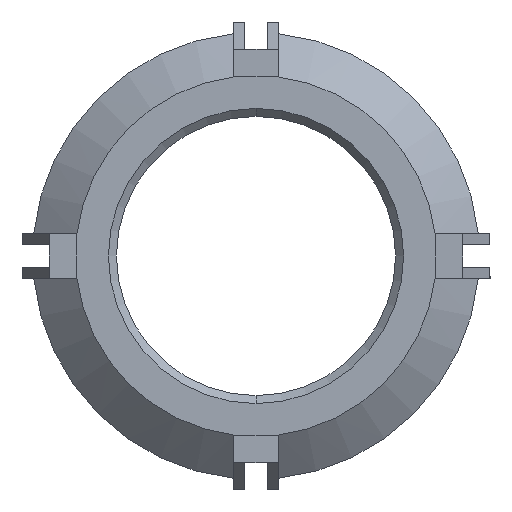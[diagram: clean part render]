
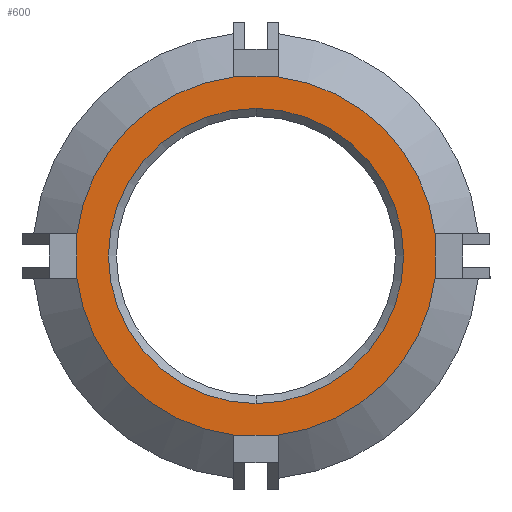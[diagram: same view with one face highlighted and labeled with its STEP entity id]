
A CAD part, front view. The second image highlights one B-rep face of the part: STEP entity #600.
In plain terms, the highlighted planar face has unit normal (0, -1, 0).
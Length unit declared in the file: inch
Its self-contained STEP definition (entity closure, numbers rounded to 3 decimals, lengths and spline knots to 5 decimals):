
#3 = EDGE_LOOP ( 'NONE', ( #1615, #2794, #1934, #1865, #41, #2922, #3356, #12 ) ) ;
#12 = ORIENTED_EDGE ( 'NONE', *, *, #758, .F. ) ;
#41 = ORIENTED_EDGE ( 'NONE', *, *, #1577, .T. ) ;
#89 = DIRECTION ( 'NONE',  ( 0., 0., 1. ) ) ;
#205 = AXIS2_PLACEMENT_3D ( 'NONE', #368, #1249, #2348 ) ;
#236 = CARTESIAN_POINT ( 'NONE',  ( 0.20041, 0., -0.025 ) ) ;
#243 = VERTEX_POINT ( 'NONE', #2242 ) ;
#250 = CARTESIAN_POINT ( 'NONE',  ( -0.025, 0., -0.20041 ) ) ;
#269 = VECTOR ( 'NONE', #1380, 39.37008 ) ;
#321 = CIRCLE ( 'NONE', #205, 0.16518 ) ;
#365 = EDGE_CURVE ( 'NONE', #2802, #2195, #321, .T. ) ;
#368 = CARTESIAN_POINT ( 'NONE',  ( 0., 0., 0. ) ) ;
#370 = CARTESIAN_POINT ( 'NONE',  ( 0.20041, 0., 0.025 ) ) ;
#383 = DIRECTION ( 'NONE',  ( 0., 0., -1. ) ) ;
#427 = CARTESIAN_POINT ( 'NONE',  ( 0.025, 0., 0.20041 ) ) ;
#436 = ORIENTED_EDGE ( 'NONE', *, *, #365, .T. ) ;
#449 = VECTOR ( 'NONE', #3378, 39.37008 ) ;
#560 = VERTEX_POINT ( 'NONE', #427 ) ;
#591 = VERTEX_POINT ( 'NONE', #773 ) ;
#600 = ADVANCED_FACE ( 'NONE', ( #1062, #737 ), #1884, .F. ) ;
#633 = LINE ( 'NONE', #250, #449 ) ;
#640 = CARTESIAN_POINT ( 'NONE',  ( 0., 0., 0. ) ) ;
#658 = EDGE_CURVE ( 'NONE', #591, #1748, #633, .T. ) ;
#665 = CARTESIAN_POINT ( 'NONE',  ( -0.20041, 0., -0.025 ) ) ;
#737 = FACE_OUTER_BOUND ( 'NONE', #3, .T. ) ;
#758 = EDGE_CURVE ( 'NONE', #1252, #560, #2053, .T. ) ;
#772 = CARTESIAN_POINT ( 'NONE',  ( -0.025, 0., 0.20041 ) ) ;
#773 = CARTESIAN_POINT ( 'NONE',  ( 0.025, 0., -0.20041 ) ) ;
#799 = AXIS2_PLACEMENT_3D ( 'NONE', #1852, #1569, #3015 ) ;
#917 = DIRECTION ( 'NONE',  ( 0., -1., 0. ) ) ;
#946 = DIRECTION ( 'NONE',  ( 0., 0., -1. ) ) ;
#1062 = FACE_BOUND ( 'NONE', #2582, .T. ) ;
#1066 = VERTEX_POINT ( 'NONE', #665 ) ;
#1070 = CARTESIAN_POINT ( 'NONE',  ( -0.025, 0., -0.20041 ) ) ;
#1104 = CIRCLE ( 'NONE', #1410, 0.20196 ) ;
#1115 = EDGE_CURVE ( 'NONE', #2842, #560, #3649, .T. ) ;
#1143 = CARTESIAN_POINT ( 'NONE',  ( 0., 0., 0.16518 ) ) ;
#1249 = DIRECTION ( 'NONE',  ( 0., 1., 0. ) ) ;
#1252 = VERTEX_POINT ( 'NONE', #772 ) ;
#1345 = CARTESIAN_POINT ( 'NONE',  ( -0.20041, 0., 0.025 ) ) ;
#1380 = DIRECTION ( 'NONE',  ( 0., 0., -1. ) ) ;
#1385 = DIRECTION ( 'NONE',  ( 0., 0., 1. ) ) ;
#1390 = EDGE_CURVE ( 'NONE', #1066, #1748, #3591, .T. ) ;
#1396 = DIRECTION ( 'NONE',  ( 0., -1., 0. ) ) ;
#1410 = AXIS2_PLACEMENT_3D ( 'NONE', #640, #2368, #383 ) ;
#1411 = AXIS2_PLACEMENT_3D ( 'NONE', #2622, #917, #1564 ) ;
#1466 = CARTESIAN_POINT ( 'NONE',  ( 0., 0., 0. ) ) ;
#1522 = VECTOR ( 'NONE', #2908, 39.37008 ) ;
#1551 = DIRECTION ( 'NONE',  ( 0., -1., 0. ) ) ;
#1564 = DIRECTION ( 'NONE',  ( 0., 0., -1. ) ) ;
#1569 = DIRECTION ( 'NONE',  ( 0., 1., 0. ) ) ;
#1577 = EDGE_CURVE ( 'NONE', #591, #3531, #1653, .T. ) ;
#1615 = ORIENTED_EDGE ( 'NONE', *, *, #3565, .T. ) ;
#1653 = CIRCLE ( 'NONE', #1411, 0.20196 ) ;
#1748 = VERTEX_POINT ( 'NONE', #1070 ) ;
#1783 = CARTESIAN_POINT ( 'NONE',  ( 0.025, 0., 0.20041 ) ) ;
#1826 = AXIS2_PLACEMENT_3D ( 'NONE', #2087, #1551, #946 ) ;
#1852 = CARTESIAN_POINT ( 'NONE',  ( 0., 0., 0. ) ) ;
#1865 = ORIENTED_EDGE ( 'NONE', *, *, #658, .F. ) ;
#1884 = PLANE ( 'NONE',  #799 ) ;
#1890 = AXIS2_PLACEMENT_3D ( 'NONE', #3530, #3214, #89 ) ;
#1913 = EDGE_CURVE ( 'NONE', #2195, #2802, #2602, .T. ) ;
#1934 = ORIENTED_EDGE ( 'NONE', *, *, #1390, .T. ) ;
#2053 = LINE ( 'NONE', #1783, #1522 ) ;
#2054 = VECTOR ( 'NONE', #1385, 39.37008 ) ;
#2087 = CARTESIAN_POINT ( 'NONE',  ( 0., 0., 0. ) ) ;
#2195 = VERTEX_POINT ( 'NONE', #2972 ) ;
#2242 = CARTESIAN_POINT ( 'NONE',  ( -0.20041, 0., 0.025 ) ) ;
#2276 = DIRECTION ( 'NONE',  ( 0., 0., -1. ) ) ;
#2348 = DIRECTION ( 'NONE',  ( 0., 0., 1. ) ) ;
#2368 = DIRECTION ( 'NONE',  ( 0., -1., 0. ) ) ;
#2387 = CARTESIAN_POINT ( 'NONE',  ( 0.20041, 0., -0.025 ) ) ;
#2582 = EDGE_LOOP ( 'NONE', ( #3191, #436 ) ) ;
#2602 = CIRCLE ( 'NONE', #1890, 0.16518 ) ;
#2622 = CARTESIAN_POINT ( 'NONE',  ( 0., 0., 0. ) ) ;
#2725 = EDGE_CURVE ( 'NONE', #1066, #243, #2803, .T. ) ;
#2794 = ORIENTED_EDGE ( 'NONE', *, *, #2725, .F. ) ;
#2799 = LINE ( 'NONE', #236, #269 ) ;
#2802 = VERTEX_POINT ( 'NONE', #1143 ) ;
#2803 = LINE ( 'NONE', #1345, #2054 ) ;
#2835 = AXIS2_PLACEMENT_3D ( 'NONE', #1466, #1396, #2276 ) ;
#2842 = VERTEX_POINT ( 'NONE', #370 ) ;
#2908 = DIRECTION ( 'NONE',  ( 1., 0., 0. ) ) ;
#2922 = ORIENTED_EDGE ( 'NONE', *, *, #3267, .F. ) ;
#2972 = CARTESIAN_POINT ( 'NONE',  ( 0., 0., -0.16518 ) ) ;
#3015 = DIRECTION ( 'NONE',  ( 0., 0., 1. ) ) ;
#3191 = ORIENTED_EDGE ( 'NONE', *, *, #1913, .T. ) ;
#3214 = DIRECTION ( 'NONE',  ( 0., 1., 0. ) ) ;
#3267 = EDGE_CURVE ( 'NONE', #2842, #3531, #2799, .T. ) ;
#3356 = ORIENTED_EDGE ( 'NONE', *, *, #1115, .T. ) ;
#3378 = DIRECTION ( 'NONE',  ( -1., 0., 0. ) ) ;
#3530 = CARTESIAN_POINT ( 'NONE',  ( 0., 0., 0. ) ) ;
#3531 = VERTEX_POINT ( 'NONE', #2387 ) ;
#3565 = EDGE_CURVE ( 'NONE', #1252, #243, #1104, .T. ) ;
#3591 = CIRCLE ( 'NONE', #2835, 0.20196 ) ;
#3649 = CIRCLE ( 'NONE', #1826, 0.20196 ) ;
